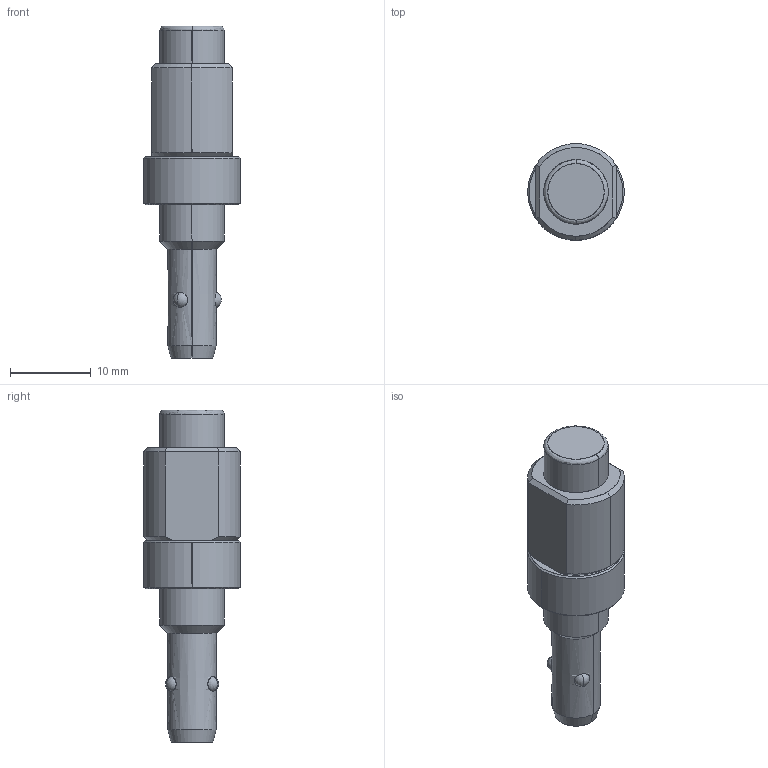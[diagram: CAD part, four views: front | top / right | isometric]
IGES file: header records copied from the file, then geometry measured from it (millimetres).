
Start section: SolidWorks IGES file using analytic representation for surfaces
Global section: file name: X:\11_SW2020-Inv2020\00_全2021-11新製品まで\q\QCBUS0608-10SUS\qcbus0608-10sus.IGS; native system: SolidWorks 2020; preprocessor: SolidWorks 2020; author: ImaoCorp; date: 211021.171857; units: millimetre
Bounding box: 12 x 12 x 41.2 mm (x, y, z)
Surface area: 1456 mm2 (no closed solid volume)
Topology: 0 solids, 0 shells, 56 faces, 740 edges, 734 vertices
Faces by surface type: revolution 41, bspline 15
